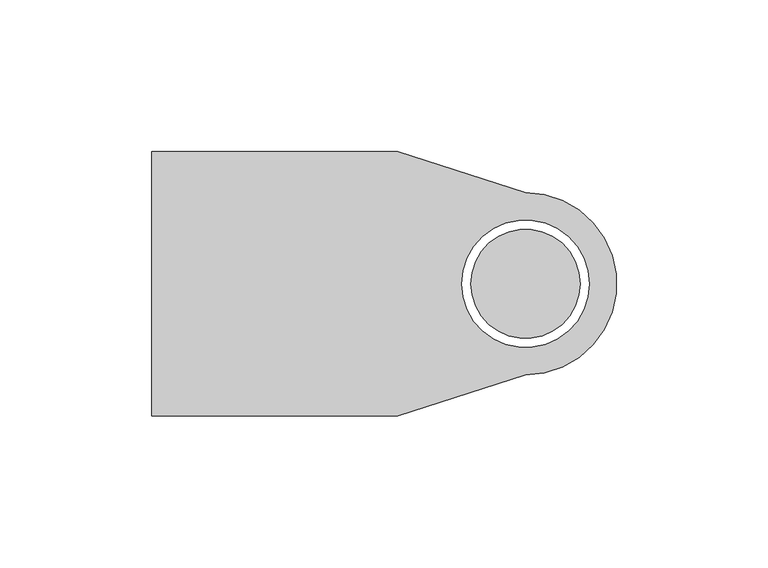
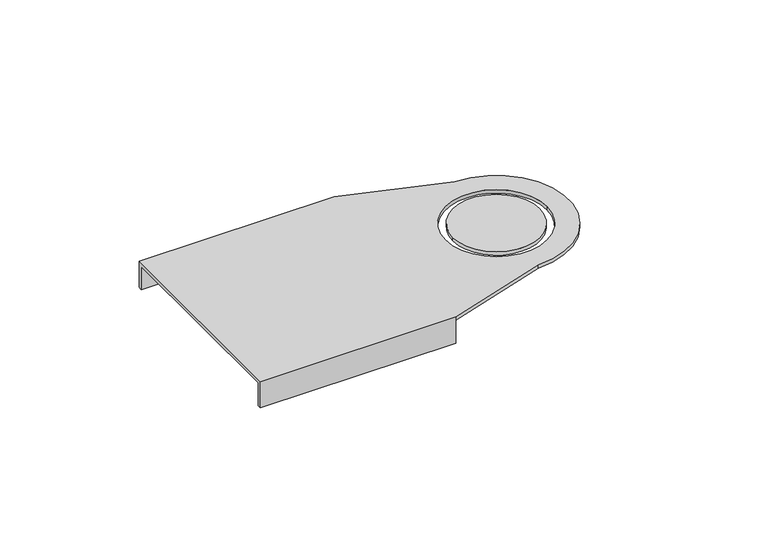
"""IFC4 building model written with IfcOpenShell, lengths in millimetres: cable carrier fitting geometry, BAKS_BEND_Articulated connector_LGP : LGP_H100."""

from ifc_helpers import new_model, si_unit, frame, origin, place, context, project, spatial, polyline, circle_curve, source, transform, mapped, element, save
from ifc_brep_helpers import plane_surface, cylinder_surface, revolved_surface, advanced_brep


def cable_carrier_fitting_2d5aa353(model_context):
    return source(origin(), model_context, "Body", "AdvancedBrep", [
        advanced_brep(
        [(-123.0, 43.5, 1.5), (-123.0, -43.5, 1.5), (-42.0, -43.5, 1.5), (0.0, -30.0, 1.5), (0.0, 30.0, 1.5), (-42.0, 43.5, 1.5), (21.0, 0.0, 1.5), (-21.0, 0.0, 1.5), (-42.0, -43.5, 0.0), (-42.0, -42.0, 0.0), (-123.0, -42.0, 0.0), (-123.0, 42.0, 0.0), (-42.0, 42.0, 0.0), (-42.0, 43.5, 0.0), (0.0, 30.0, 0.0), (0.0, -30.0, 0.0), (-21.0, 0.0, 0.0), (21.0, 0.0, 0.0), (-42.0, 43.5, -10.0), (-123.0, 43.5, -10.0), (-123.0, -43.5, -10.0), (-42.0, -43.5, -10.0), (-123.0, 42.0, -10.0), (-123.0, -42.0, -10.0), (-42.0, -42.0, -10.0), (-42.0, 42.0, -10.0)],
        [
            (0, 1),
            (1, 2),
            (2, 3),
            (3, 4, circle_curve(frame((0.0, 0.0, 1.5), z_axis=(0.0, 0.0, 1.0), x_axis=(-1.0, 0.0, 0.0)), 30.0)),
            (4, 5),
            (5, 0),
            (6, 7, circle_curve(frame((0.0, 0.0, 1.5), z_axis=(0.0, 0.0, -1.0), x_axis=(-1.0, 0.0, 0.0)), 21.0)),
            (7, 6, circle_curve(frame((0.0, 0.0, 1.5), z_axis=(0.0, 0.0, -1.0), x_axis=(-1.0, 0.0, 0.0)), 21.0)),
            (8, 9),
            (9, 10),
            (10, 11),
            (11, 12),
            (12, 13),
            (13, 14),
            (14, 15, circle_curve(frame((0.0, 0.0, 0.0), z_axis=(0.0, 0.0, -1.0), x_axis=(-1.0, 0.0, 0.0)), 30.0)),
            (15, 8),
            (16, 17, circle_curve(frame((0.0, 0.0, 0.0), z_axis=(0.0, 0.0, 1.0), x_axis=(-1.0, 0.0, 0.0)), 21.0)),
            (17, 16, circle_curve(frame((0.0, 0.0, 0.0), z_axis=(0.0, 0.0, 1.0), x_axis=(-1.0, 0.0, 0.0)), 21.0)),
            (5, 13),
            (13, 18),
            (18, 19),
            (19, 0),
            (1, 20),
            (20, 21),
            (21, 8),
            (8, 2),
            (19, 22),
            (22, 11),
            (10, 23),
            (23, 20),
            (7, 16),
            (17, 6),
            (4, 14),
            (3, 15),
            (23, 24),
            (24, 21),
            (9, 24),
            (18, 25),
            (25, 22),
            (12, 25),
        ],
        [
            plane_surface(frame((-42.0, 43.5, 1.5), z_axis=(0.0, 0.0, 1.0), x_axis=(1.0, 0.0, 0.0))),
            plane_surface(frame((-42.0, 43.5, 0.0), z_axis=(0.0, 0.0, -1.0), x_axis=(-1.0, 0.0, 0.0))),
            plane_surface(frame((-123.0, 43.5, 1.5), z_axis=(0.0, 1.0, 0.0), x_axis=(0.0, 0.0, -1.0))),
            plane_surface(frame((-42.0, -43.5, 1.5), z_axis=(0.0, -1.0, 0.0), x_axis=(0.0, 0.0, -1.0))),
            plane_surface(frame((-123.0, -43.5, 1.5), z_axis=(-1.0, 0.0, 0.0), x_axis=(0.0, 0.0, -1.0))),
            revolved_surface(polyline([(-21.0, 0.0, 1.5), (-21.0, 0.0, 0.0)]), (0.0, 0.0, 0.0), (0.0, 0.0, 1.0)),
            plane_surface(frame((-42.0, 43.5, 1.5), z_axis=(0.306009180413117, 0.9520285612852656, 0.0), x_axis=(0.0, 0.0, -1.0))),
            cylinder_surface(frame((0.0, 0.0, 0.0), z_axis=(0.0, 0.0, 1.0), x_axis=(-1.0, 0.0, 0.0)), 30.0),
            plane_surface(frame((0.0, -30.0, 1.5), z_axis=(0.30600918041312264, -0.9520285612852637, 0.0), x_axis=(0.0, 0.0, -1.0))),
            plane_surface(frame((-42.0, -42.0, -10.0), z_axis=(0.0, 0.0, -1.0), x_axis=(-1.0, 0.0, 0.0))),
            plane_surface(frame((-123.0, -42.0, 0.0), z_axis=(0.0, 1.0, 0.0), x_axis=(0.0, 0.0, -1.0))),
            plane_surface(frame((-42.0, -42.0, 0.0), z_axis=(1.0, 0.0, 0.0), x_axis=(0.0, 0.0, -1.0))),
            plane_surface(frame((-42.0, 43.5, -10.0), z_axis=(0.0, 0.0, -1.0), x_axis=(-1.0, 0.0, 0.0))),
            plane_surface(frame((-42.0, 43.5, 0.0), z_axis=(1.0, 0.0, 0.0), x_axis=(0.0, 0.0, -1.0))),
            plane_surface(frame((-42.0, 42.0, 0.0), z_axis=(0.0, -1.0, 0.0), x_axis=(0.0, 0.0, -1.0))),
        ],
        [
            (0, [[1, 2, 3, 4, 5, 6], [7, 8]]),
            (1, [[9, 10, 11, 12, 13, 14, 15, 16], [17, 18]]),
            (2, [[19, 20, 21, 22, -6]]),
            (3, [[23, 24, 25, 26, -2]]),
            (4, [[27, 28, -11, 29, 30, -23, -1, -22]]),
            (5, [[-8, 31, -18, 32]]),
            (5, [[-17, -31, -7, -32]]),
            (6, [[33, -14, -19, -5]]),
            (7, [[34, -15, -33, -4]]),
            (8, [[-26, -16, -34, -3]]),
            (9, [[35, 36, -24, -30]]),
            (10, [[-29, -10, 37, -35]]),
            (11, [[-37, -9, -25, -36]]),
            (12, [[-21, 38, 39, -27]]),
            (13, [[-20, -13, 40, -38]]),
            (14, [[-40, -12, -28, -39]]),
        ],
    ),
        advanced_brep(
        [(18.0, 0.0, 1.5), (-18.0, 0.0, 1.5), (-18.0, 0.0, 0.0), (18.0, 0.0, 0.0)],
        [
            (0, 1, circle_curve(frame((0.0, 0.0, 1.5), z_axis=(0.0, 0.0, 1.0), x_axis=(-1.0, 0.0, 0.0)), 18.0)),
            (1, 0, circle_curve(frame((0.0, 0.0, 1.5), z_axis=(0.0, 0.0, 1.0), x_axis=(-1.0, 0.0, 0.0)), 18.0)),
            (2, 3, circle_curve(frame((0.0, 0.0, 0.0), z_axis=(0.0, 0.0, -1.0), x_axis=(-1.0, 0.0, 0.0)), 18.0)),
            (3, 2, circle_curve(frame((0.0, 0.0, 0.0), z_axis=(0.0, 0.0, -1.0), x_axis=(-1.0, 0.0, 0.0)), 18.0)),
            (1, 2),
            (3, 0),
        ],
        [
            plane_surface(frame((-42.0, 43.5, 1.5), z_axis=(0.0, 0.0, 1.0), x_axis=(1.0, 0.0, 0.0))),
            plane_surface(frame((-42.0, 43.5, 0.0), z_axis=(0.0, 0.0, -1.0), x_axis=(-1.0, 0.0, 0.0))),
            cylinder_surface(frame((0.0, 0.0, 0.0), z_axis=(0.0, 0.0, -1.0), x_axis=(-1.0, 0.0, 0.0)), 18.0),
        ],
        [
            (0, [[1, 2]]),
            (1, [[3, 4]]),
            (2, [[-2, 5, -4, 6]]),
            (2, [[-3, -5, -1, -6]]),
        ],
    ),
    ])


if __name__ == "__main__":
    model = new_model("IFC4")
    model_context = context("Model", 3, world=origin())
    ifc_project = project(units=[si_unit("LENGTHUNIT", "METRE", prefix="MILLI")], contexts=[model_context])
    site = spatial("IfcSite", under=ifc_project)
    building = spatial("IfcBuilding", under=site)
    placement = place(None, origin())
    cable_carrier_fitting_shape = cable_carrier_fitting_2d5aa353(model_context)
    element("IfcCableCarrierFitting", 1, ObjectType="BAKS_BEND_Articulated connector_LGP : LGP_H100", at=placement, inside=building, context=model_context, shape_type="MappedRepresentation", body=[
        mapped(cable_carrier_fitting_shape, transform((0.0, 0.0, 0.0), x_axis=(1.0, 0.0, 0.0), y_axis=(0.0, 1.0, 0.0), z_axis=(0.0, 0.0, 1.0))),
    ])
    save(model, "model.ifc")
